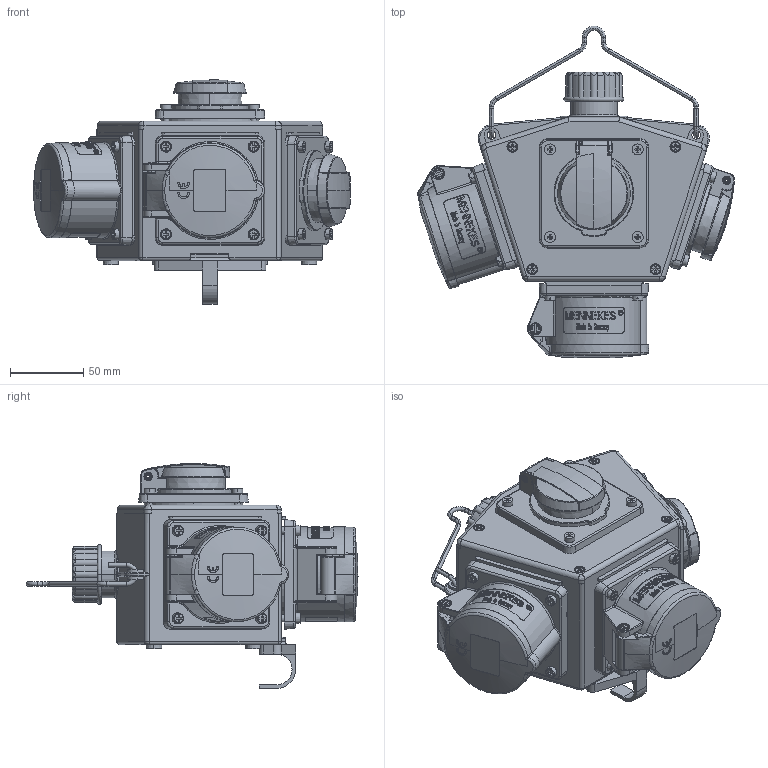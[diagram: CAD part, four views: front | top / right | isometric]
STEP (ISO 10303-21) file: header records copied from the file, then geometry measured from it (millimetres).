
FILE_DESCRIPTION((''),'2;1');
FILE_NAME('1117212_ASM_SW0001','2018-05-23T',('gisse'),('MENNEKES'),'PRO/ENGINEER BY PARAMETRIC TECHNOLOGY CORPORATION, 2015440','PRO/ENGINEER BY PARAMETRIC TECHNOLOGY CORPORATION, 2015440','');
FILE_SCHEMA(('AUTOMOTIVE_DESIGN { 1 0 10303 214 1 1 1 1 }'));
Products named in the file (1): 1117212_ASM_SW0001
Bounding box: 216.89 x 227.19 x 153.88 mm (x, y, z)
Volume: 1889995.7 mm3; surface area: 149097.8 mm2
Topology: 2 solids, 3 shells, 3142 faces, 8309 edges, 5306 vertices
Faces by surface type: plane 1804, cylinder 598, torus 254, bspline 228, cone 220, sphere 38
Entity records: 175294 total; most frequent: CARTESIAN_POINT 39786, ORIENTED_EDGE 16546, DIRECTION 13950, PRESENTATION_STYLE_ASSIGNMENT 11325, STYLED_ITEM 8275, CURVE_STYLE 8273, EDGE_CURVE 8273, FILL_AREA_STYLE_COLOUR 6070
